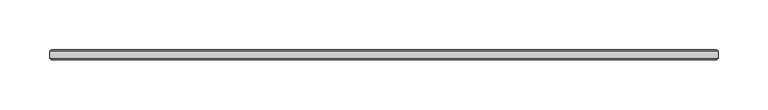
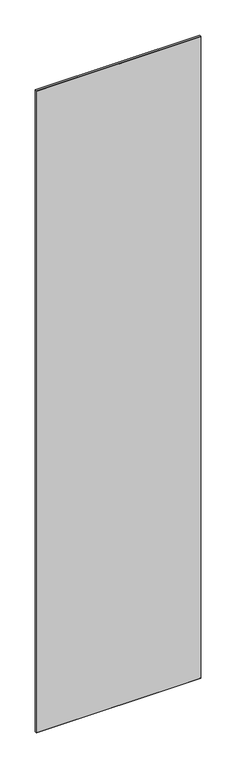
"""IFC4 building model written with IfcOpenShell, lengths in millimetres: plate geometry, 11-AMG-1-Панель одинарный витраж 10-12 : Центр Толщина 10mm."""

from ifc_helpers import new_model, si_unit, origin, place, context, project, spatial, faceted_brep, source, transform, mapped, element, save


def plate_5362bc71(model_context):
    return source(origin(), model_context, "Body", "Brep", [
        faceted_brep([(339.4, 3.4961653, 2777.6), (-333.4, 3.4961653, 2777.6), (-333.4, -3.4961653, 2777.6), (339.4, -3.4961653, 2777.6), (339.4, -3.5039422, 5.0), (-333.4, -3.5039422, 5.0), (-333.4, 3.4961653, 5.0), (339.4, 3.4961653, 5.0), (-331.8961653, -5.0, 2776.0961653), (-331.8961653, -5.0, 6.4960578), (337.8961653, -5.0, 6.4960578), (337.8961653, -5.0, 2776.0961653), (337.8961653, 5.0, 2776.0961653), (337.8961653, 5.0, 6.5038347), (-331.8961653, 5.0, 6.5038347), (-331.8961653, 5.0, 2776.0961653)], [[[0, 1, 2, 3]], [[4, 5, 6, 7]], [[8, 9, 10, 11]], [[1, 6, 5, 2]], [[12, 13, 14, 15]], [[3, 4, 7, 0]], [[3, 11, 10, 4]], [[7, 13, 12, 0]], [[5, 9, 8, 2]], [[1, 15, 14, 6]], [[0, 12, 15, 1]], [[2, 8, 11, 3]], [[6, 14, 13, 7]], [[4, 10, 9, 5]]]),
    ])


if __name__ == "__main__":
    model = new_model("IFC4")
    model_context = context("Model", 3, world=origin())
    ifc_project = project(units=[si_unit("LENGTHUNIT", "METRE", prefix="MILLI")], contexts=[model_context])
    site = spatial("IfcSite", under=ifc_project)
    building = spatial("IfcBuilding", under=site)
    placement = place(None, origin())
    plate_shape = plate_5362bc71(model_context)
    element("IfcPlate", 1, ObjectType="11-AMG-1-Панель одинарный витраж 10-12 : Центр Толщина 10mm", at=placement, inside=building, context=model_context, shape_type="MappedRepresentation", body=[
        mapped(plate_shape, transform((0.0, 0.0, 0.0), x_axis=(1.0, 0.0, 0.0), y_axis=(0.0, 1.0, 0.0), z_axis=(0.0, 0.0, 1.0))),
    ])
    save(model, "model.ifc")
